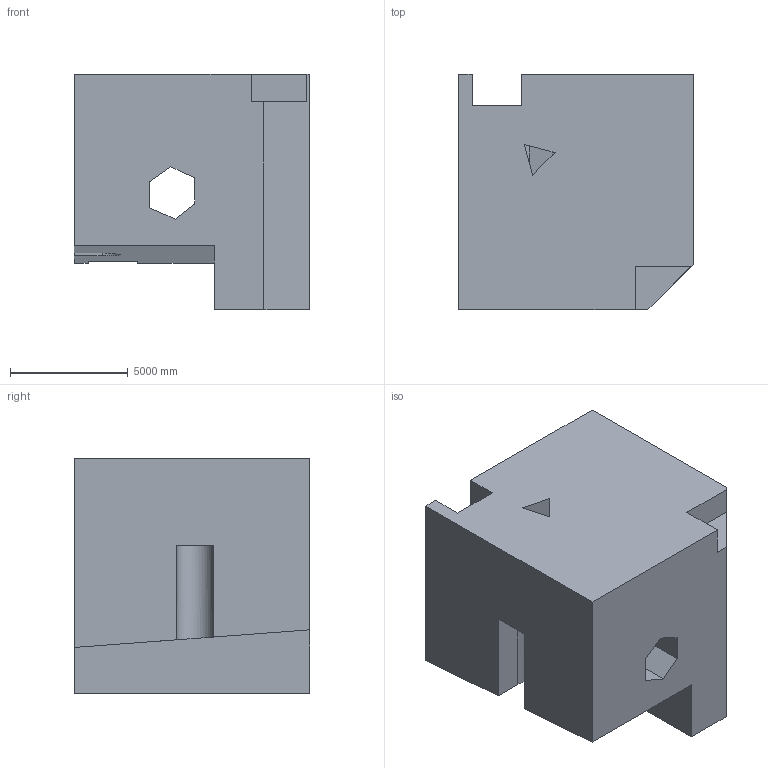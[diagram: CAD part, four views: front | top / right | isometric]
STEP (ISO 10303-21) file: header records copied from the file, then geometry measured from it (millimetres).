
FILE_DESCRIPTION (( 'STEP AP203' ), '1' );
FILE_NAME ('1970.STEP', '2022-08-25T16:54:18', ( 'user' ), ( '' ), 'SwSTEP 2.0', 'SolidWorks 2021', '' );
FILE_SCHEMA (( 'CONFIG_CONTROL_DESIGN' ));
Length unit declared in the file: centimetre
Products named in the file (1): 1970
Bounding box: 10000 x 10000 x 10000 mm (x, y, z)
Volume: 741239172876.1 mm3; surface area: 682148951.2 mm2
Topology: 1 solids, 1 shells, 43 faces, 123 edges, 82 vertices
Faces by surface type: plane 42, cylinder 1
Entity records: 1463 total; most frequent: CARTESIAN_POINT 252, ORIENTED_EDGE 246, DIRECTION 211, EDGE_CURVE 123, LINE 121, VECTOR 121, VERTEX_POINT 82, EDGE_LOOP 47
